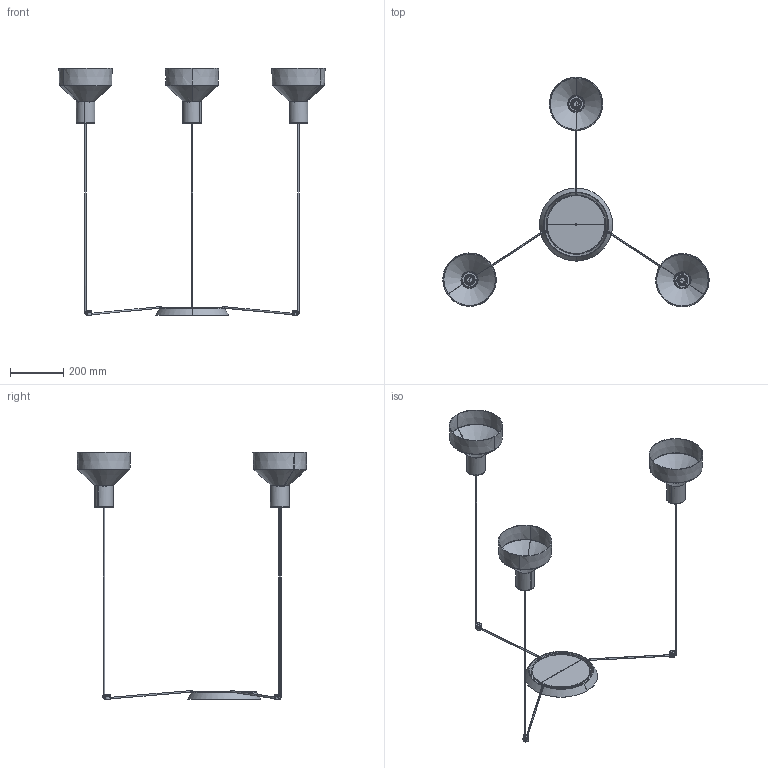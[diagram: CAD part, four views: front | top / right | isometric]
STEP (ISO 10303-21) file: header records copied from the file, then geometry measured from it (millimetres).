
FILE_DESCRIPTION(/* description */ (''),/* implementation_level */ '2;1');
FILE_NAME(/* name */ 'C:\Users\Franco Sartori E\Documents\FARO\DUPLICADO\Modelos\01_Digitalizados\2021\KOMBO\03_Publicación\68593-3L.stp',/* time_stamp */ '2021-02-25T10:13:37+01:00',/* author */ ('Franco Sartori E'),/* organization */ (''),/* preprocessor_version */ 'ST-DEVELOPER v18.1',/* originating_system */ 'AutoCAD Mechanical',/* authorisation */ '');
FILE_SCHEMA (('AUTOMOTIVE_DESIGN { 1 0 10303 214 3 1 1 }'));
Length unit declared in the file: millimetre
Products named in the file (5): Product; CANOPY_3 - 68603-407759-_3D_; KOMBO200FMA - LH-412805-_3D_; KOMBO200FMA - LH-412808-_3D_; KOMBO200FMA - LH-412811-_3D_
Assembly tree (4 placements, depth 2):
  Product
    CANOPY_3 - 68603-407759-_3D_
    KOMBO200FMA - LH-412805-_3D_
    KOMBO200FMA - LH-412808-_3D_
    KOMBO200FMA - LH-412811-_3D_
Bounding box: 995.67 x 859.77 x 924.93 mm (x, y, z)
Volume: 873461.5 mm3; surface area: 1533448.2 mm2
Topology: 41 solids, 41 shells, 871 faces, 2081 edges, 1250 vertices
Faces by surface type: cylinder 309, plane 304, torus 138, cone 120
Entity records: 34242 total; most frequent: CARTESIAN_POINT 14817, ORIENTED_EDGE 4150, DIRECTION 3775, EDGE_CURVE 2075, AXIS2_PLACEMENT_3D 1509, VERTEX_POINT 1250, EDGE_LOOP 941, FACE_OUTER_BOUND 871
